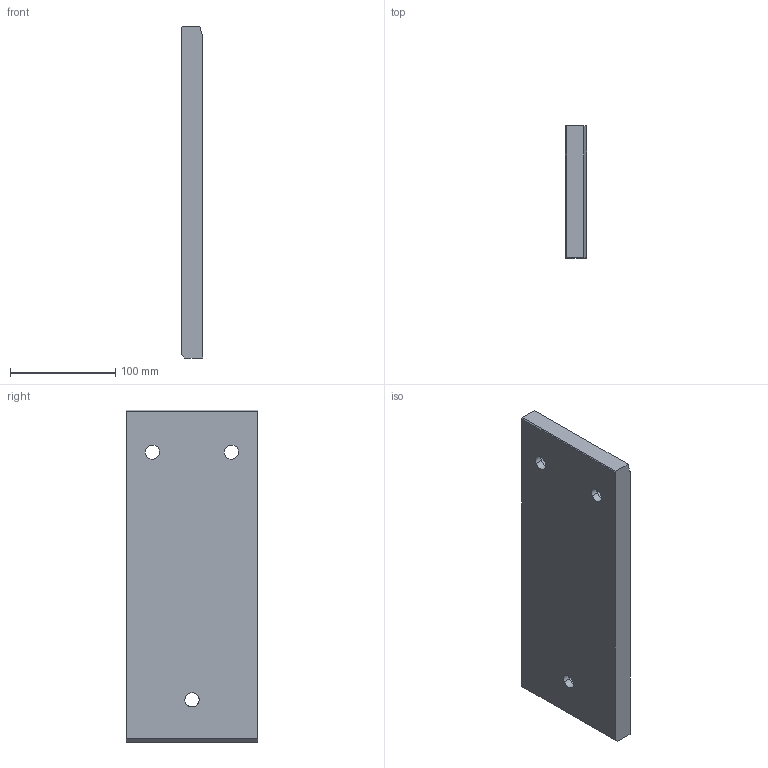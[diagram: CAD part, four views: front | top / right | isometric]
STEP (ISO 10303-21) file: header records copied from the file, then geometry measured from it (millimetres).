
FILE_DESCRIPTION (( 'STEP AP214' ), '1' );
FILE_NAME ('SW225-01-125x315.STEP', '2020-10-21T10:34:55', ( 'August' ), ( '' ), 'SwSTEP 2.0', 'SolidWorks 2018', '' );
FILE_SCHEMA (( 'AUTOMOTIVE_DESIGN' ));
Length unit declared in the file: millimetre
Products named in the file (1): SW225-01-125x315
Bounding box: 20 x 125 x 315 mm (x, y, z)
Volume: 769939.9 mm3; surface area: 98210.7 mm2
Topology: 1 solids, 1 shells, 25 faces, 60 edges, 40 vertices
Faces by surface type: cylinder 13, plane 12
Entity records: 858 total; most frequent: CARTESIAN_POINT 210, DIRECTION 130, ORIENTED_EDGE 120, EDGE_CURVE 60, AXIS2_PLACEMENT_3D 48, VERTEX_POINT 40, LINE 34, EDGE_LOOP 34
